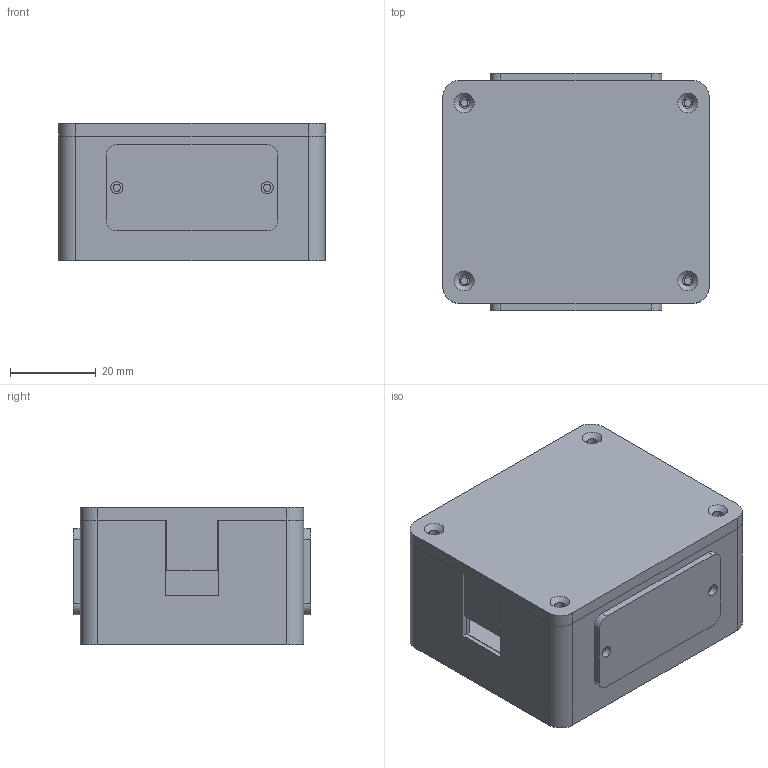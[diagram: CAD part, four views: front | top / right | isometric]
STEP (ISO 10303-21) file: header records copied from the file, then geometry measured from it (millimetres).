
FILE_DESCRIPTION(('Open CASCADE Model'),'2;1');
FILE_NAME('Open CASCADE Shape Model','2026-11-08T21:30:44',('Author'),( 'Open CASCADE'),'Open CASCADE STEP processor 7.8','Open CASCADE 7.8' ,'Unknown');
FILE_SCHEMA(('AUTOMOTIVE_DESIGN { 1 0 10303 214 1 1 1 1 }'));
Length unit declared in the file: millimetre
Products named in the file (7): Tally_V4_62x52x32; socle; couvercle; support_LED_avant; support_LED_arriere; diffuseur_avant; diffuseur_arriere
Assembly tree (6 placements, depth 2):
  Tally_V4_62x52x32
    socle
    couvercle
    support_LED_avant
    support_LED_arriere
    diffuseur_avant
    diffuseur_arriere
Bounding box: 62 x 55.2 x 32 mm (x, y, z)
Volume: 35077.4 mm3; surface area: 34329.6 mm2
Topology: 6 solids, 6 shells, 296 faces, 764 edges, 508 vertices
Faces by surface type: plane 216, cylinder 76, cone 4
Full cylindrical faces by diameter (mm): 1.7 x10, 2.4 x4, 2.8 x4, 5 x2, 5.6 x4
Entity records: 18930 total; most frequent: CARTESIAN_POINT 3796, DIRECTION 2654, LINE 1617, VECTOR 1617, ORIENTED_EDGE 1528, PCURVE 1528, DEFINITIONAL_REPRESENTATION 1528, EDGE_CURVE 764
